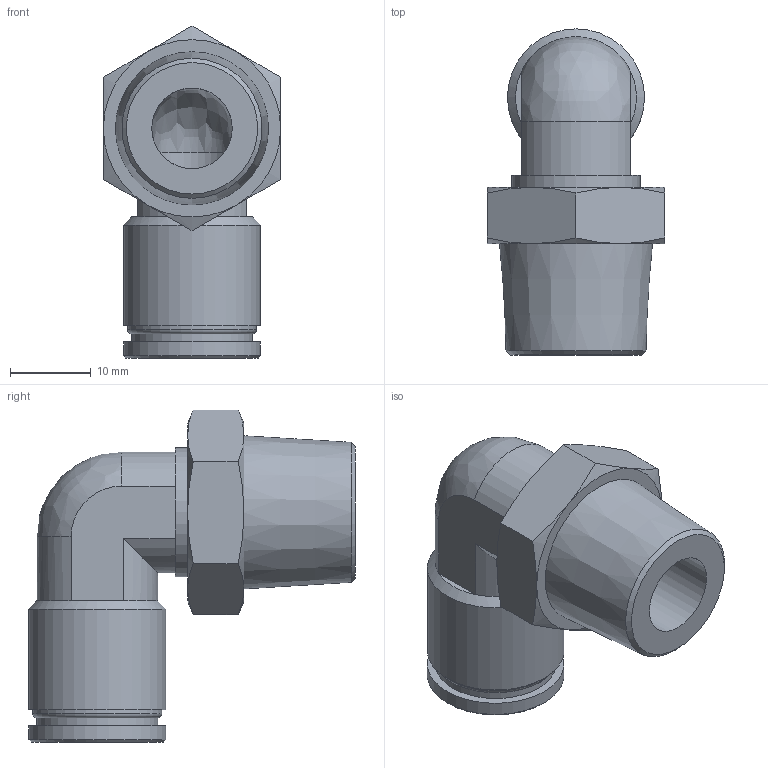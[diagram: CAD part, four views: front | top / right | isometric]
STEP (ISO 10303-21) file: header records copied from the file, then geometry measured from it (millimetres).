
FILE_DESCRIPTION(/* description */ (''),/* implementation_level */ '2;1');
FILE_NAME(/* name */ 'LXH21 0012 B4.stp',/* time_stamp */ '2026-05-01T12:12:44+02:00',/* author */ ('freju'),/* organization */ (''),/* preprocessor_version */ 'ST-DEVELOPER v20.1',/* originating_system */ 'Autodesk Inventor 2026',/* authorisation */ '');
FILE_SCHEMA (('AUTOMOTIVE_DESIGN { 1 0 10303 214 3 1 1 }'));
Length unit declared in the file: millimetre
Products named in the file (1): LXH21 0012 B4
Bounding box: 22 x 40.5 x 41.2 mm (x, y, z)
Volume: 8580 mm3; surface area: 5936.6 mm2
Topology: 1 solids, 1 shells, 49 faces, 108 edges, 65 vertices
Faces by surface type: plane 18, cone 16, cylinder 12, bspline 2, torus 1
Full cylindrical faces by diameter (mm): 10 x2, 12 x1, 15 x1, 16 x2, 17 x2
Entity records: 1385 total; most frequent: CARTESIAN_POINT 303, DIRECTION 230, ORIENTED_EDGE 212, EDGE_CURVE 106, AXIS2_PLACEMENT_3D 100, VERTEX_POINT 65, EDGE_LOOP 57, CIRCLE 50
